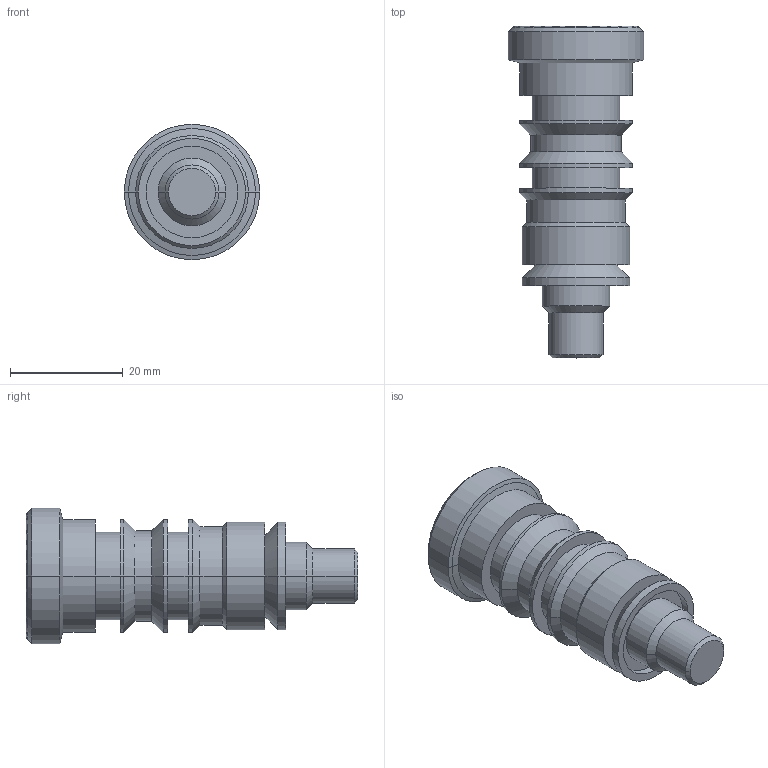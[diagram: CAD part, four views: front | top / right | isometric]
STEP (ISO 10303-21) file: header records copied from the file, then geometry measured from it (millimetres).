
FILE_DESCRIPTION((''),'2;1');
FILE_NAME('RJV1_05','2011-03-15T',('paro'),(''),'PRO/ENGINEER BY PARAMETRIC TECHNOLOGY CORPORATION, 2010180','PRO/ENGINEER BY PARAMETRIC TECHNOLOGY CORPORATION, 2010180','');
FILE_SCHEMA(('CONFIG_CONTROL_DESIGN'));
Length unit declared in the file: millimetre
Products named in the file (1): RJV1_05
Bounding box: 24 x 58.8 x 24 mm (x, y, z)
Volume: 13060.2 mm3; surface area: 5521.6 mm2
Topology: 1 solids, 2 shells, 73 faces, 155 edges, 92 vertices
Faces by surface type: cylinder 32, plane 21, cone 20
Entity records: 1983 total; most frequent: DIRECTION 379, CARTESIAN_POINT 318, ORIENTED_EDGE 300, EDGE_CURVE 152, AXIS2_PLACEMENT_3D 151, VERTEX_POINT 89, EDGE_LOOP 81, VECTOR 77
